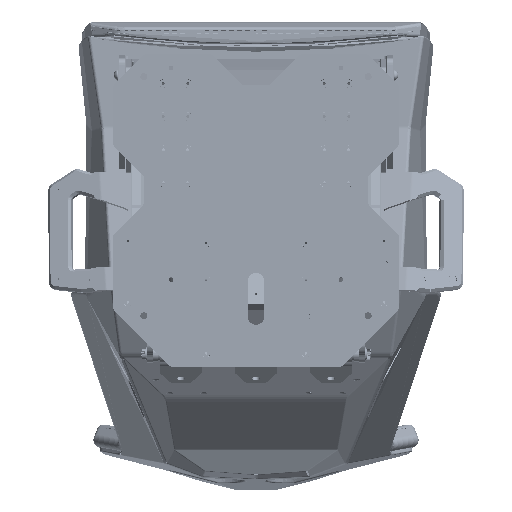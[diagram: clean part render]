
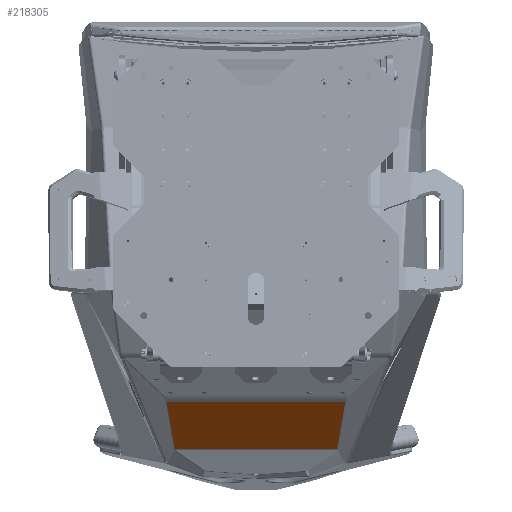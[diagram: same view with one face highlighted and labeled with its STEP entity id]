
A CAD part, front view. The second image highlights one B-rep face of the part: STEP entity #218305.
In plain terms, the highlighted planar face has unit normal (0, -0.492, -0.87).
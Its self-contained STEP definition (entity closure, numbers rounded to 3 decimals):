
#1843 = VECTOR ( 'NONE', #275450, 1000. ) ;
#8433 = EDGE_CURVE ( 'NONE', #127624, #180365, #132588, .T. ) ;
#31648 = CARTESIAN_POINT ( 'NONE',  ( -118.22, 765.368, -252.217 ) ) ;
#51168 = EDGE_LOOP ( 'NONE', ( #258593, #163765, #292033, #112295 ) ) ;
#63217 = DIRECTION ( 'NONE',  ( 1., 0., 0. ) ) ;
#66659 = CARTESIAN_POINT ( 'NONE',  ( 0., 631.254, -176.328 ) ) ;
#77561 = DIRECTION ( 'NONE',  ( -0.085, -0.867, 0.491 ) ) ;
#94043 = VECTOR ( 'NONE', #161489, 1000. ) ;
#104261 = VERTEX_POINT ( 'NONE', #257705 ) ;
#112295 = ORIENTED_EDGE ( 'NONE', *, *, #283238, .F. ) ;
#112622 = LINE ( 'NONE', #66659, #94043 ) ;
#127624 = VERTEX_POINT ( 'NONE', #178810 ) ;
#132588 = LINE ( 'NONE', #296393, #1843 ) ;
#154200 = VECTOR ( 'NONE', #77561, 1000. ) ;
#154920 = LINE ( 'NONE', #282146, #270782 ) ;
#154996 = CARTESIAN_POINT ( 'NONE',  ( 131.429, 631.254, -176.328 ) ) ;
#161489 = DIRECTION ( 'NONE',  ( -1., 0., 0. ) ) ;
#163765 = ORIENTED_EDGE ( 'NONE', *, *, #8433, .T. ) ;
#176135 = CARTESIAN_POINT ( 'NONE',  ( -119.248, 754.933, -246.312 ) ) ;
#178810 = CARTESIAN_POINT ( 'NONE',  ( 119.248, 754.933, -246.312 ) ) ;
#180365 = VERTEX_POINT ( 'NONE', #154996 ) ;
#191703 = DIRECTION ( 'NONE',  ( 0., 0.492, 0.87 ) ) ;
#195866 = DIRECTION ( 'NONE',  ( 0., -0.87, 0.492 ) ) ;
#217592 = LINE ( 'NONE', #31648, #154200 ) ;
#218305 = ADVANCED_FACE ( 'NONE', ( #255970 ), #279423, .F. ) ;
#227370 = VERTEX_POINT ( 'NONE', #176135 ) ;
#234528 = CARTESIAN_POINT ( 'NONE',  ( 0., 756.548, -247.226 ) ) ;
#239998 = AXIS2_PLACEMENT_3D ( 'NONE', #234528, #191703, #195866 ) ;
#255970 = FACE_OUTER_BOUND ( 'NONE', #51168, .T. ) ;
#257705 = CARTESIAN_POINT ( 'NONE',  ( -131.429, 631.254, -176.328 ) ) ;
#258593 = ORIENTED_EDGE ( 'NONE', *, *, #269396, .T. ) ;
#269396 = EDGE_CURVE ( 'NONE', #227370, #127624, #154920, .T. ) ;
#270782 = VECTOR ( 'NONE', #63217, 1000. ) ;
#275450 = DIRECTION ( 'NONE',  ( 0.085, -0.867, 0.491 ) ) ;
#279423 = PLANE ( 'NONE',  #239998 ) ;
#282146 = CARTESIAN_POINT ( 'NONE',  ( 0., 754.933, -246.312 ) ) ;
#283238 = EDGE_CURVE ( 'NONE', #227370, #104261, #217592, .T. ) ;
#292033 = ORIENTED_EDGE ( 'NONE', *, *, #303105, .T. ) ;
#296393 = CARTESIAN_POINT ( 'NONE',  ( 118.22, 765.368, -252.217 ) ) ;
#303105 = EDGE_CURVE ( 'NONE', #180365, #104261, #112622, .T. ) ;
